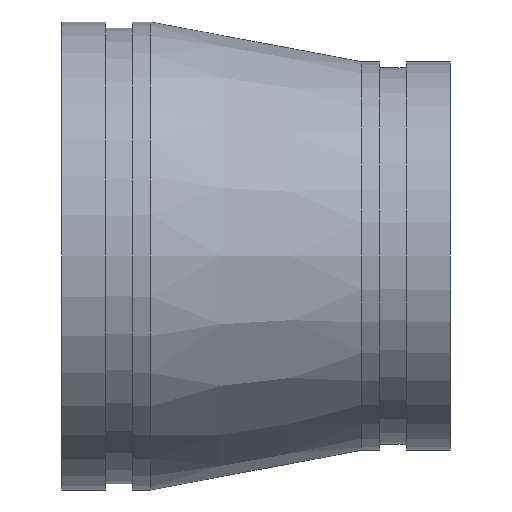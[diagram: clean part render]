
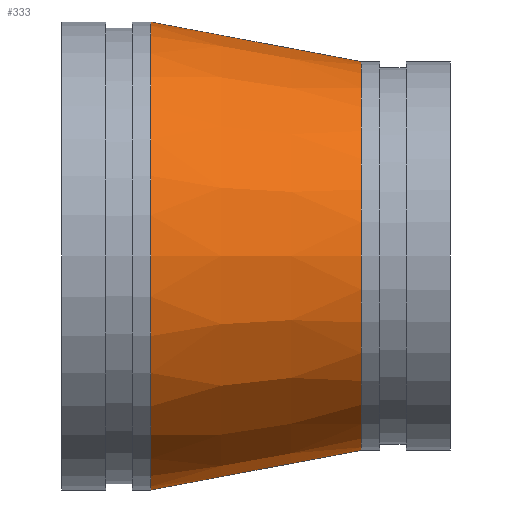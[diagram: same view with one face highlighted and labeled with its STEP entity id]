
A CAD part, front view. The second image highlights one B-rep face of the part: STEP entity #333.
In plain terms, the highlighted conical face has half-angle 10.689 degrees and reference radius 76.994 mm.
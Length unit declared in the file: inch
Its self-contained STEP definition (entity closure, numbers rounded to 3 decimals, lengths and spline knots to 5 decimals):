
#65=FACE_OUTER_BOUND('',#81,.T.);
#81=EDGE_LOOP('',(#229,#230,#231,#232,#233,#234));
#103=LINE('',#571,#113);
#113=VECTOR('',#438,3.03125);
#123=CIRCLE('',#370,2.75);
#124=CIRCLE('',#371,2.75);
#125=CIRCLE('',#372,3.3125);
#126=CIRCLE('',#373,3.3125);
#155=VERTEX_POINT('',#566);
#156=VERTEX_POINT('',#567);
#157=VERTEX_POINT('',#570);
#158=VERTEX_POINT('',#572);
#187=EDGE_CURVE('',#155,#156,#123,.T.);
#188=EDGE_CURVE('',#156,#155,#124,.T.);
#189=EDGE_CURVE('',#156,#157,#103,.T.);
#190=EDGE_CURVE('',#157,#158,#125,.T.);
#191=EDGE_CURVE('',#158,#157,#126,.T.);
#229=ORIENTED_EDGE('',*,*,#187,.F.);
#230=ORIENTED_EDGE('',*,*,#188,.F.);
#231=ORIENTED_EDGE('',*,*,#189,.T.);
#232=ORIENTED_EDGE('',*,*,#190,.T.);
#233=ORIENTED_EDGE('',*,*,#191,.T.);
#234=ORIENTED_EDGE('',*,*,#189,.F.);
#313=CONICAL_SURFACE('',#369,3.03125,0.187);
#333=ADVANCED_FACE('',(#65),#313,.T.);
#369=AXIS2_PLACEMENT_3D('',#565,#432,#433);
#370=AXIS2_PLACEMENT_3D('',#568,#434,#435);
#371=AXIS2_PLACEMENT_3D('',#569,#436,#437);
#372=AXIS2_PLACEMENT_3D('',#573,#439,#440);
#373=AXIS2_PLACEMENT_3D('',#574,#441,#442);
#432=DIRECTION('center_axis',(-1.,0.,0.));
#433=DIRECTION('ref_axis',(0.,1.,0.));
#434=DIRECTION('center_axis',(1.,0.,0.));
#435=DIRECTION('ref_axis',(0.,1.,0.));
#436=DIRECTION('center_axis',(1.,0.,0.));
#437=DIRECTION('ref_axis',(0.,1.,0.));
#438=DIRECTION('',(-0.983,-0.185,0.));
#439=DIRECTION('center_axis',(1.,0.,0.));
#440=DIRECTION('ref_axis',(0.,1.,0.));
#441=DIRECTION('center_axis',(1.,0.,0.));
#442=DIRECTION('ref_axis',(0.,1.,0.));
#565=CARTESIAN_POINT('Origin',(2.75,0.,0.));
#566=CARTESIAN_POINT('',(4.24,2.75,0.));
#567=CARTESIAN_POINT('',(4.24,-2.75,0.));
#568=CARTESIAN_POINT('Origin',(4.24,0.,0.));
#569=CARTESIAN_POINT('Origin',(4.24,0.,0.));
#570=CARTESIAN_POINT('',(1.26,-3.3125,0.));
#571=CARTESIAN_POINT('',(2.75,-3.03125,0.));
#572=CARTESIAN_POINT('',(1.26,3.3125,0.));
#573=CARTESIAN_POINT('Origin',(1.26,0.,0.));
#574=CARTESIAN_POINT('Origin',(1.26,0.,0.));
